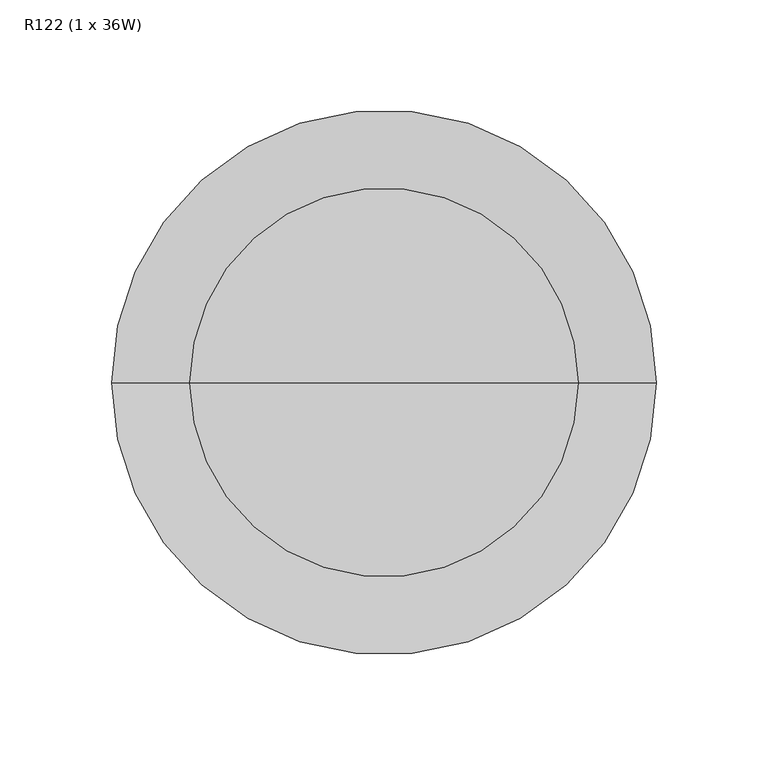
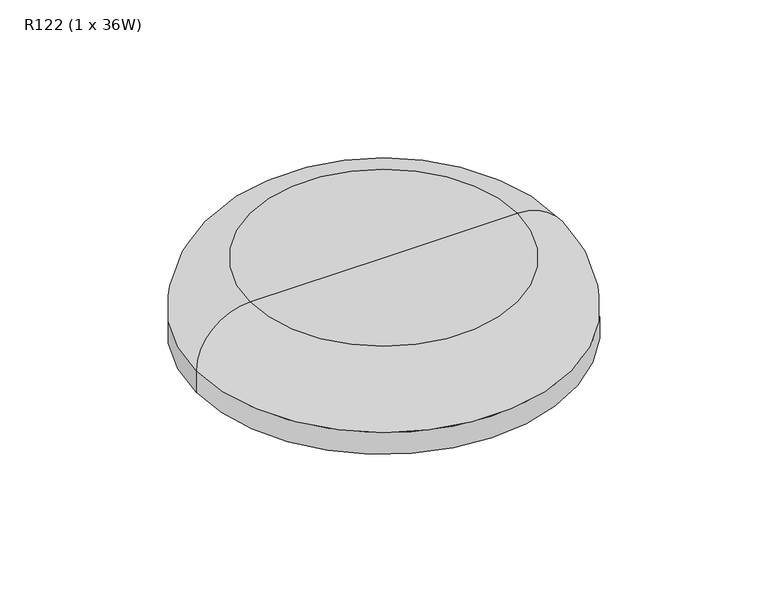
"""IFC4 building model written with IfcOpenShell, lengths in millimetres: light fixture geometry, Lighting_Ceiling-Mounted_Zeppelin-Rental-GmbH_Toilet : R122 (1 x 36W)."""

from ifc_helpers import new_model, si_unit, point, frame, origin, place, context, project, spatial, circle_curve, ellipse_curve, trimmed, source, transform, mapped, element, save
from ifc_brep_helpers import plane_surface, cylinder_surface, revolved_surface, advanced_brep


def r122_1_x_36w_7453fb00(model_context):
    return source(origin(), model_context, "Body", "AdvancedBrep", [
        advanced_brep(
        [(87.0, 0.0, 50.0), (-87.0, 0.0, 50.0), (0.0, 0.0, 50.0), (122.0, 0.0, 15.0), (-122.0, 0.0, 15.0), (122.0, 0.0, 0.0), (-122.0, 0.0, 0.0), (0.0, 0.0, 0.0)],
        [
            (0, 1, circle_curve(frame((0.0, 0.0, 50.0), z_axis=(0.0, 0.0, 1.0), x_axis=(-1.0, 0.0, 0.0)), 87.0)),
            (1, 2),
            (2, 0),
            (1, 0, circle_curve(frame((0.0, 0.0, 50.0), z_axis=(0.0, 0.0, 1.0), x_axis=(-1.0, 0.0, 0.0)), 87.0)),
            (3, 4, circle_curve(frame((0.0, 0.0, 15.0), z_axis=(0.0, 0.0, 1.0), x_axis=(-1.0, 0.0, 0.0)), 122.0)),
            (4, 1, circle_curve(frame((-87.0, 0.0, 15.0), z_axis=(0.0, 1.0, 0.0), x_axis=(1.0, 0.0, 0.0)), 35.0)),
            (0, 3, circle_curve(frame((87.0, 0.0, 15.0), z_axis=(0.0, 1.0, 0.0), x_axis=(-1.0, 0.0, 0.0)), 35.0)),
            (4, 3, circle_curve(frame((0.0, 0.0, 15.0), z_axis=(0.0, 0.0, 1.0), x_axis=(-1.0, 0.0, 0.0)), 122.0)),
            (5, 6, circle_curve(frame((0.0, 0.0, 0.0), z_axis=(0.0, 0.0, 1.0), x_axis=(-1.0, 0.0, 0.0)), 122.0)),
            (6, 4),
            (3, 5),
            (6, 5, circle_curve(frame((0.0, 0.0, 0.0), z_axis=(0.0, 0.0, 1.0), x_axis=(-1.0, 0.0, 0.0)), 122.0)),
            (7, 6),
            (5, 7),
        ],
        [
            plane_surface(frame((0.0, 0.0, 50.0), z_axis=(0.0, 0.0, 1.0), x_axis=(-1.0, 0.0, 0.0))),
            revolved_surface(trimmed(ellipse_curve(frame((-87.0, 0.0, 15.0), z_axis=(0.0, -1.0, 0.0), x_axis=(1.0, 0.0, 0.0)), 35.0, 35.0), [point((-87.0, 0.0, 50.0))], [point((-122.0, 0.0, 15.0))], True, "CARTESIAN"), (0.0, 0.0, 2609.0581012), (0.0, 0.0, -1.0)),
            cylinder_surface(frame((0.0, 0.0, 2609.0581012), z_axis=(0.0, 0.0, -1.0), x_axis=(-1.0, 0.0, 0.0)), 122.0),
            plane_surface(frame((0.0, 0.0, 0.0), z_axis=(0.0, 0.0, -1.0), x_axis=(-1.0, 0.0, 0.0))),
        ],
        [
            (0, [[1, 2, 3]]),
            (0, [[4, -3, -2]]),
            (1, [[5, 6, -1, 7]]),
            (1, [[8, -7, -4, -6]]),
            (2, [[9, 10, -5, 11]]),
            (2, [[12, -11, -8, -10]]),
            (3, [[13, -9, 14]]),
            (3, [[-14, -12, -13]]),
        ],
    ),
    ])


if __name__ == "__main__":
    model = new_model("IFC4")
    model_context = context("Model", 3, world=origin())
    ifc_project = project(units=[si_unit("LENGTHUNIT", "METRE", prefix="MILLI")], contexts=[model_context])
    site = spatial("IfcSite", under=ifc_project)
    building = spatial("IfcBuilding", under=site)
    placement = place(None, origin())
    r122_1_x_36w_shape = r122_1_x_36w_7453fb00(model_context)
    element("IfcLightFixture", 1, ObjectType="Lighting_Ceiling-Mounted_Zeppelin-Rental-GmbH_Toilet : R122 (1 x 36W)", at=placement, inside=building, context=model_context, shape_type="MappedRepresentation", body=[
        mapped(r122_1_x_36w_shape, transform((0.0, 0.0, 0.0), x_axis=(1.0, 0.0, 0.0), y_axis=(0.0, 1.0, 0.0), z_axis=(0.0, 0.0, 1.0))),
    ])
    save(model, "model.ifc")
